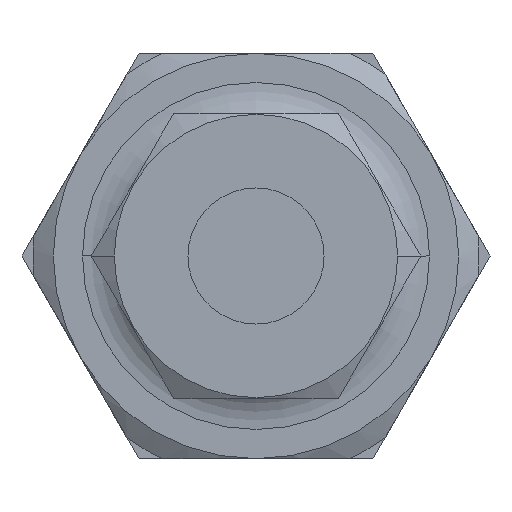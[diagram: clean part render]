
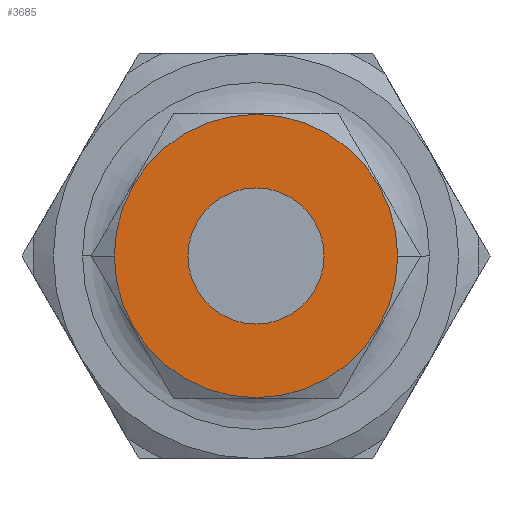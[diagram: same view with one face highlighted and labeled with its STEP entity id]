
A CAD part, left-side view. The second image highlights one B-rep face of the part: STEP entity #3685.
In plain terms, the highlighted planar face has unit normal (-1, 0, 0).
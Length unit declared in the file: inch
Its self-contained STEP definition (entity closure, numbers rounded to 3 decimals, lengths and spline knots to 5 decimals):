
#3402=CARTESIAN_POINT('',(-2.11,0.,0.));
#3403=DIRECTION('',(-1.,0.,0.));
#3404=DIRECTION('',(0.,1.,0.));
#3405=AXIS2_PLACEMENT_3D('',#3402,#3403,#3404);
#3407=CARTESIAN_POINT('',(-2.11,0.,0.));
#3408=DIRECTION('',(-1.,0.,0.));
#3409=DIRECTION('',(0.,-1.,0.));
#3410=AXIS2_PLACEMENT_3D('',#3407,#3408,#3409);
#3664=CARTESIAN_POINT('',(-2.11,0.2185,0.));
#3665=CARTESIAN_POINT('',(-2.11,-0.2185,0.));
#3666=VERTEX_POINT('',#3664);
#3667=VERTEX_POINT('',#3665);
#3674=CARTESIAN_POINT('',(-2.11,0.,0.));
#3675=DIRECTION('',(1.,0.,0.));
#3676=DIRECTION('',(0.,0.,-1.));
#3677=AXIS2_PLACEMENT_3D('',#3674,#3675,#3676);
#3678=PLANE('',#3677);
#3680=ORIENTED_EDGE('',*,*,#3679,.F.);
#3682=ORIENTED_EDGE('',*,*,#3681,.F.);
#3683=EDGE_LOOP('',(#3680,#3682));
#3684=FACE_OUTER_BOUND('',#3683,.F.);
#3685=ADVANCED_FACE('',(#3684),#3678,.F.);
#3406=CIRCLE('',#3405,0.2185);
#3411=CIRCLE('',#3410,0.2185);
#3679=EDGE_CURVE('',#3666,#3667,#3406,.T.);
#3681=EDGE_CURVE('',#3667,#3666,#3411,.T.);
